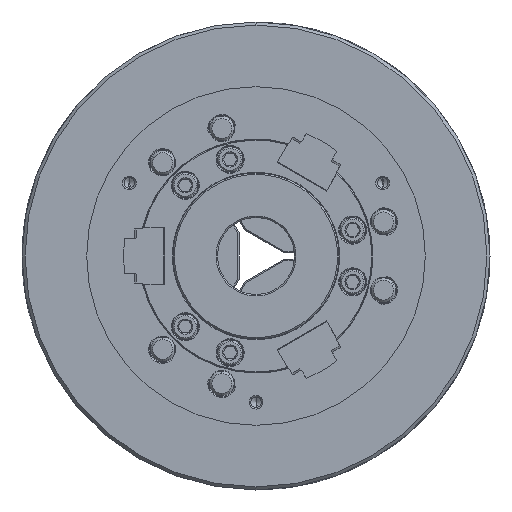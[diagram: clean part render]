
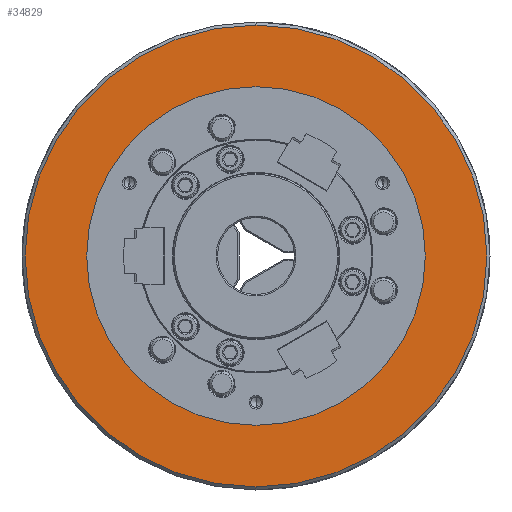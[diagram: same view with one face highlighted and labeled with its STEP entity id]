
A CAD part, left-side view. The second image highlights one B-rep face of the part: STEP entity #34829.
In plain terms, the highlighted planar face has unit normal (-1, 0, 0).
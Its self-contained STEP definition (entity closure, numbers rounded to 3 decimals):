
#1857 = CARTESIAN_POINT ( 'NONE',  ( -110., 0., 0. ) ) ;
#3383 = EDGE_CURVE ( 'NONE', #9643, #58016, #21889, .T. ) ;
#3633 = DIRECTION ( 'NONE',  ( 0., 0., -1. ) ) ;
#6220 = CARTESIAN_POINT ( 'NONE',  ( -110., 0., 0. ) ) ;
#8280 = FACE_OUTER_BOUND ( 'NONE', #23469, .T. ) ;
#9643 = VERTEX_POINT ( 'NONE', #33356 ) ;
#11613 = DIRECTION ( 'NONE',  ( 0., 0., 1. ) ) ;
#13324 = AXIS2_PLACEMENT_3D ( 'NONE', #1857, #25312, #72298 ) ;
#14826 = VERTEX_POINT ( 'NONE', #70829 ) ;
#19229 = CIRCLE ( 'NONE', #56117, 110. ) ;
#20479 = DIRECTION ( 'NONE',  ( -1., 0., 0. ) ) ;
#21889 = CIRCLE ( 'NONE', #13324, 150. ) ;
#23125 = EDGE_LOOP ( 'NONE', ( #70786, #76044 ) ) ;
#23469 = EDGE_LOOP ( 'NONE', ( #25301, #33748 ) ) ;
#24695 = CIRCLE ( 'NONE', #28380, 110. ) ;
#25301 = ORIENTED_EDGE ( 'NONE', *, *, #41652, .T. ) ;
#25312 = DIRECTION ( 'NONE',  ( -1., 0., 0. ) ) ;
#28380 = AXIS2_PLACEMENT_3D ( 'NONE', #43600, #20479, #67083 ) ;
#30605 = AXIS2_PLACEMENT_3D ( 'NONE', #47341, #70834, #49630 ) ;
#31742 = PLANE ( 'NONE',  #65348 ) ;
#33356 = CARTESIAN_POINT ( 'NONE',  ( -110., 0., 150. ) ) ;
#33748 = ORIENTED_EDGE ( 'NONE', *, *, #3383, .T. ) ;
#34248 = EDGE_CURVE ( 'NONE', #36293, #14826, #24695, .T. ) ;
#34276 = CIRCLE ( 'NONE', #30605, 150. ) ;
#34829 = ADVANCED_FACE ( 'NONE', ( #53710, #8280 ), #31742, .F. ) ;
#36293 = VERTEX_POINT ( 'NONE', #40857 ) ;
#38331 = EDGE_CURVE ( 'NONE', #14826, #36293, #19229, .T. ) ;
#40497 = DIRECTION ( 'NONE',  ( -1., 0., 0. ) ) ;
#40857 = CARTESIAN_POINT ( 'NONE',  ( -110., 0., 110. ) ) ;
#41652 = EDGE_CURVE ( 'NONE', #58016, #9643, #34276, .T. ) ;
#43600 = CARTESIAN_POINT ( 'NONE',  ( -110., 0., 0. ) ) ;
#47341 = CARTESIAN_POINT ( 'NONE',  ( -110., 0., 0. ) ) ;
#49630 = DIRECTION ( 'NONE',  ( 0., 0., 1. ) ) ;
#53710 = FACE_BOUND ( 'NONE', #23125, .T. ) ;
#55234 = CARTESIAN_POINT ( 'NONE',  ( -110., 150., 0. ) ) ;
#56117 = AXIS2_PLACEMENT_3D ( 'NONE', #6220, #40497, #11613 ) ;
#58016 = VERTEX_POINT ( 'NONE', #60245 ) ;
#60245 = CARTESIAN_POINT ( 'NONE',  ( -110., 0., -150. ) ) ;
#65348 = AXIS2_PLACEMENT_3D ( 'NONE', #55234, #67189, #3633 ) ;
#67083 = DIRECTION ( 'NONE',  ( 0., 0., 1. ) ) ;
#67189 = DIRECTION ( 'NONE',  ( 1., 0., 0. ) ) ;
#70786 = ORIENTED_EDGE ( 'NONE', *, *, #34248, .F. ) ;
#70829 = CARTESIAN_POINT ( 'NONE',  ( -110., 0., -110. ) ) ;
#70834 = DIRECTION ( 'NONE',  ( -1., 0., 0. ) ) ;
#72298 = DIRECTION ( 'NONE',  ( 0., 0., 1. ) ) ;
#76044 = ORIENTED_EDGE ( 'NONE', *, *, #38331, .F. ) ;
